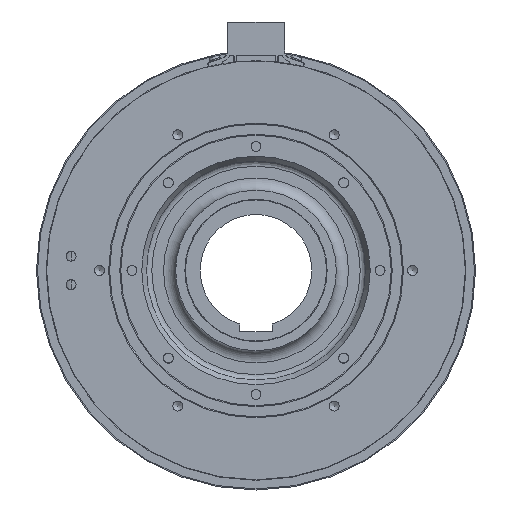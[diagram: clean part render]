
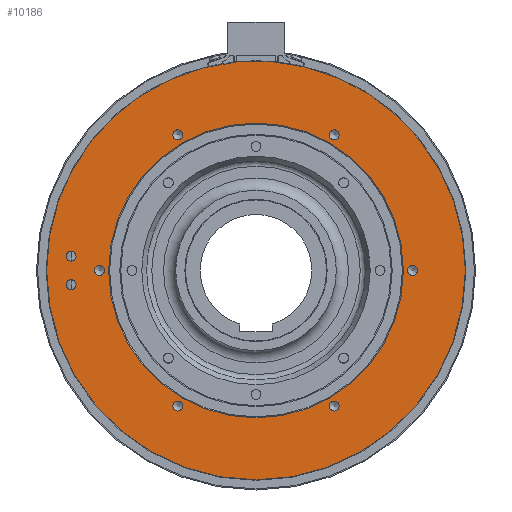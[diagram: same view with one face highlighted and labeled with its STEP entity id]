
A CAD part, left-side view. The second image highlights one B-rep face of the part: STEP entity #10186.
In plain terms, the highlighted planar face has unit normal (-1, 0, 0).
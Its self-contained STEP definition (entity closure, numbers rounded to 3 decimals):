
#1711=FACE_BOUND('',#2917,.T.);
#1712=FACE_BOUND('',#2918,.T.);
#1713=FACE_BOUND('',#2919,.T.);
#1714=FACE_BOUND('',#2920,.T.);
#1715=FACE_BOUND('',#2921,.T.);
#1716=FACE_BOUND('',#2922,.T.);
#1717=FACE_BOUND('',#2923,.T.);
#1718=FACE_BOUND('',#2924,.T.);
#1719=FACE_BOUND('',#2925,.T.);
#2253=FACE_OUTER_BOUND('',#2916,.T.);
#2916=EDGE_LOOP('',(#9055,#9056,#9057));
#2917=EDGE_LOOP('',(#9058,#9059));
#2918=EDGE_LOOP('',(#9060,#9061));
#2919=EDGE_LOOP('',(#9062,#9063));
#2920=EDGE_LOOP('',(#9064,#9065));
#2921=EDGE_LOOP('',(#9066,#9067));
#2922=EDGE_LOOP('',(#9068,#9069));
#2923=EDGE_LOOP('',(#9070,#9071));
#2924=EDGE_LOOP('',(#9072,#9073));
#2925=EDGE_LOOP('',(#9074));
#3540=CIRCLE('',#11171,103.);
#3541=CIRCLE('',#11172,103.);
#3711=CIRCLE('',#11498,103.);
#3723=CIRCLE('',#11519,2.459);
#3724=CIRCLE('',#11520,2.459);
#3725=CIRCLE('',#11522,2.459);
#3726=CIRCLE('',#11523,2.459);
#3729=CIRCLE('',#11528,2.459);
#3730=CIRCLE('',#11529,2.459);
#3733=CIRCLE('',#11534,2.459);
#3734=CIRCLE('',#11535,2.459);
#3737=CIRCLE('',#11540,2.459);
#3738=CIRCLE('',#11541,2.459);
#3741=CIRCLE('',#11546,2.459);
#3742=CIRCLE('',#11547,2.459);
#3745=CIRCLE('',#11552,2.459);
#3746=CIRCLE('',#11553,2.459);
#3749=CIRCLE('',#11558,2.459);
#3750=CIRCLE('',#11559,2.459);
#3753=CIRCLE('',#11563,72.5);
#4459=VERTEX_POINT('',#17111);
#4464=VERTEX_POINT('',#17121);
#4465=VERTEX_POINT('',#17123);
#4684=VERTEX_POINT('',#18083);
#4685=VERTEX_POINT('',#18084);
#4686=VERTEX_POINT('',#18089);
#4687=VERTEX_POINT('',#18090);
#4691=VERTEX_POINT('',#18102);
#4692=VERTEX_POINT('',#18103);
#4696=VERTEX_POINT('',#18115);
#4697=VERTEX_POINT('',#18116);
#4701=VERTEX_POINT('',#18128);
#4702=VERTEX_POINT('',#18129);
#4706=VERTEX_POINT('',#18141);
#4707=VERTEX_POINT('',#18142);
#4711=VERTEX_POINT('',#18154);
#4712=VERTEX_POINT('',#18155);
#4716=VERTEX_POINT('',#18167);
#4717=VERTEX_POINT('',#18168);
#4720=VERTEX_POINT('',#18177);
#5755=EDGE_CURVE('',#4465,#4464,#3540,.T.);
#5756=EDGE_CURVE('',#4459,#4465,#3541,.T.);
#6115=EDGE_CURVE('',#4464,#4459,#3711,.T.);
#6134=EDGE_CURVE('',#4684,#4685,#3723,.T.);
#6135=EDGE_CURVE('',#4685,#4684,#3724,.T.);
#6137=EDGE_CURVE('',#4686,#4687,#3725,.T.);
#6138=EDGE_CURVE('',#4687,#4686,#3726,.T.);
#6143=EDGE_CURVE('',#4691,#4692,#3729,.T.);
#6144=EDGE_CURVE('',#4692,#4691,#3730,.T.);
#6149=EDGE_CURVE('',#4696,#4697,#3733,.T.);
#6150=EDGE_CURVE('',#4697,#4696,#3734,.T.);
#6155=EDGE_CURVE('',#4701,#4702,#3737,.T.);
#6156=EDGE_CURVE('',#4702,#4701,#3738,.T.);
#6161=EDGE_CURVE('',#4706,#4707,#3741,.T.);
#6162=EDGE_CURVE('',#4707,#4706,#3742,.T.);
#6167=EDGE_CURVE('',#4711,#4712,#3745,.T.);
#6168=EDGE_CURVE('',#4712,#4711,#3746,.T.);
#6173=EDGE_CURVE('',#4716,#4717,#3749,.T.);
#6174=EDGE_CURVE('',#4717,#4716,#3750,.T.);
#6179=EDGE_CURVE('',#4720,#4720,#3753,.T.);
#9055=ORIENTED_EDGE('',*,*,#5755,.T.);
#9056=ORIENTED_EDGE('',*,*,#6115,.T.);
#9057=ORIENTED_EDGE('',*,*,#5756,.T.);
#9058=ORIENTED_EDGE('',*,*,#6134,.T.);
#9059=ORIENTED_EDGE('',*,*,#6135,.T.);
#9060=ORIENTED_EDGE('',*,*,#6137,.T.);
#9061=ORIENTED_EDGE('',*,*,#6138,.T.);
#9062=ORIENTED_EDGE('',*,*,#6143,.T.);
#9063=ORIENTED_EDGE('',*,*,#6144,.T.);
#9064=ORIENTED_EDGE('',*,*,#6149,.T.);
#9065=ORIENTED_EDGE('',*,*,#6150,.T.);
#9066=ORIENTED_EDGE('',*,*,#6155,.T.);
#9067=ORIENTED_EDGE('',*,*,#6156,.T.);
#9068=ORIENTED_EDGE('',*,*,#6161,.T.);
#9069=ORIENTED_EDGE('',*,*,#6162,.T.);
#9070=ORIENTED_EDGE('',*,*,#6167,.T.);
#9071=ORIENTED_EDGE('',*,*,#6168,.T.);
#9072=ORIENTED_EDGE('',*,*,#6173,.T.);
#9073=ORIENTED_EDGE('',*,*,#6174,.T.);
#9074=ORIENTED_EDGE('',*,*,#6179,.F.);
#9301=PLANE('',#11564);
#10186=ADVANCED_FACE('',(#2253,#1711,#1712,#1713,#1714,#1715,#1716,#1717,
#1718,#1719),#9301,.T.);
#11171=AXIS2_PLACEMENT_3D('',#17124,#13851,#13852);
#11172=AXIS2_PLACEMENT_3D('',#17125,#13853,#13854);
#11498=AXIS2_PLACEMENT_3D('',#17950,#14678,#14679);
#11519=AXIS2_PLACEMENT_3D('',#18085,#14721,#14722);
#11520=AXIS2_PLACEMENT_3D('',#18086,#14723,#14724);
#11522=AXIS2_PLACEMENT_3D('',#18091,#14728,#14729);
#11523=AXIS2_PLACEMENT_3D('',#18092,#14730,#14731);
#11528=AXIS2_PLACEMENT_3D('',#18104,#14742,#14743);
#11529=AXIS2_PLACEMENT_3D('',#18105,#14744,#14745);
#11534=AXIS2_PLACEMENT_3D('',#18117,#14756,#14757);
#11535=AXIS2_PLACEMENT_3D('',#18118,#14758,#14759);
#11540=AXIS2_PLACEMENT_3D('',#18130,#14770,#14771);
#11541=AXIS2_PLACEMENT_3D('',#18131,#14772,#14773);
#11546=AXIS2_PLACEMENT_3D('',#18143,#14784,#14785);
#11547=AXIS2_PLACEMENT_3D('',#18144,#14786,#14787);
#11552=AXIS2_PLACEMENT_3D('',#18156,#14798,#14799);
#11553=AXIS2_PLACEMENT_3D('',#18157,#14800,#14801);
#11558=AXIS2_PLACEMENT_3D('',#18169,#14812,#14813);
#11559=AXIS2_PLACEMENT_3D('',#18170,#14814,#14815);
#11563=AXIS2_PLACEMENT_3D('',#18179,#14824,#14825);
#11564=AXIS2_PLACEMENT_3D('',#18180,#14826,#14827);
#13851=DIRECTION('center_axis',(-1.,0.,0.));
#13852=DIRECTION('ref_axis',(0.,1.,0.));
#13853=DIRECTION('center_axis',(-1.,0.,0.));
#13854=DIRECTION('ref_axis',(0.,1.,0.));
#14678=DIRECTION('center_axis',(-1.,0.,0.));
#14679=DIRECTION('ref_axis',(0.,1.,0.));
#14721=DIRECTION('center_axis',(1.,0.,0.));
#14722=DIRECTION('ref_axis',(0.,0.,
1.));
#14723=DIRECTION('center_axis',(1.,0.,0.));
#14724=DIRECTION('ref_axis',(0.,0.,
1.));
#14728=DIRECTION('center_axis',(1.,0.,0.));
#14729=DIRECTION('ref_axis',(0.,0.,
1.));
#14730=DIRECTION('center_axis',(1.,0.,0.));
#14731=DIRECTION('ref_axis',(0.,0.,
1.));
#14742=DIRECTION('center_axis',(1.,0.,0.));
#14743=DIRECTION('ref_axis',(0.,0.,
1.));
#14744=DIRECTION('center_axis',(1.,0.,0.));
#14745=DIRECTION('ref_axis',(0.,0.,
1.));
#14756=DIRECTION('center_axis',(1.,0.,0.));
#14757=DIRECTION('ref_axis',(0.,0.,
1.));
#14758=DIRECTION('center_axis',(1.,0.,0.));
#14759=DIRECTION('ref_axis',(0.,0.,
1.));
#14770=DIRECTION('center_axis',(1.,0.,0.));
#14771=DIRECTION('ref_axis',(0.,0.,
1.));
#14772=DIRECTION('center_axis',(1.,0.,0.));
#14773=DIRECTION('ref_axis',(0.,0.,
1.));
#14784=DIRECTION('center_axis',(1.,0.,0.));
#14785=DIRECTION('ref_axis',(0.,0.,
1.));
#14786=DIRECTION('center_axis',(1.,0.,0.));
#14787=DIRECTION('ref_axis',(0.,0.,
1.));
#14798=DIRECTION('center_axis',(1.,0.,0.));
#14799=DIRECTION('ref_axis',(0.,0.,
1.));
#14800=DIRECTION('center_axis',(1.,0.,0.));
#14801=DIRECTION('ref_axis',(0.,0.,
1.));
#14812=DIRECTION('center_axis',(1.,0.,0.));
#14813=DIRECTION('ref_axis',(0.,0.,
1.));
#14814=DIRECTION('center_axis',(1.,0.,0.));
#14815=DIRECTION('ref_axis',(0.,0.,
1.));
#14824=DIRECTION('center_axis',(-1.,0.,0.));
#14825=DIRECTION('ref_axis',(0.,-1.,0.));
#14826=DIRECTION('center_axis',(-1.,0.,0.));
#14827=DIRECTION('ref_axis',(0.,0.,
1.));
#17111=CARTESIAN_POINT('',(-18.,9.681,102.544));
#17121=CARTESIAN_POINT('',(-18.,-103.,0.));
#17123=CARTESIAN_POINT('',(-18.,103.,0.));
#17124=CARTESIAN_POINT('Origin',(-18.,0.,
0.));
#17125=CARTESIAN_POINT('Origin',(-18.,0.,
0.));
#17950=CARTESIAN_POINT('Origin',(-18.,0.,
0.));
#18083=CARTESIAN_POINT('',(-18.,91.,9.459));
#18084=CARTESIAN_POINT('',(-18.,91.,4.542));
#18085=CARTESIAN_POINT('Origin',(-18.,91.,7.));
#18086=CARTESIAN_POINT('Origin',(-18.,91.,7.));
#18089=CARTESIAN_POINT('',(-18.,91.,-4.541));
#18090=CARTESIAN_POINT('',(-18.,91.,-9.458));
#18091=CARTESIAN_POINT('Origin',(-18.,91.,-7.));
#18092=CARTESIAN_POINT('Origin',(-18.,91.,-7.));
#18102=CARTESIAN_POINT('',(-18.,38.5,69.142));
#18103=CARTESIAN_POINT('',(-18.,38.5,64.225));
#18104=CARTESIAN_POINT('Origin',(-18.,38.5,66.684));
#18105=CARTESIAN_POINT('Origin',(-18.,38.5,66.684));
#18115=CARTESIAN_POINT('',(-18.,-38.5,69.142));
#18116=CARTESIAN_POINT('',(-18.,-38.5,64.225));
#18117=CARTESIAN_POINT('Origin',(-18.,-38.5,66.684));
#18118=CARTESIAN_POINT('Origin',(-18.,-38.5,66.684));
#18128=CARTESIAN_POINT('',(-18.,-77.,2.458));
#18129=CARTESIAN_POINT('',(-18.,-77.,-2.459));
#18130=CARTESIAN_POINT('Origin',(-18.,-77.,0.));
#18131=CARTESIAN_POINT('Origin',(-18.,-77.,0.));
#18141=CARTESIAN_POINT('',(-18.,-38.5,-64.225));
#18142=CARTESIAN_POINT('',(-18.,-38.5,-69.142));
#18143=CARTESIAN_POINT('Origin',(-18.,-38.5,-66.684));
#18144=CARTESIAN_POINT('Origin',(-18.,-38.5,-66.684));
#18154=CARTESIAN_POINT('',(-18.,38.5,-64.225));
#18155=CARTESIAN_POINT('',(-18.,38.5,-69.142));
#18156=CARTESIAN_POINT('Origin',(-18.,38.5,-66.684));
#18157=CARTESIAN_POINT('Origin',(-18.,38.5,-66.684));
#18167=CARTESIAN_POINT('',(-18.,77.,2.459));
#18168=CARTESIAN_POINT('',(-18.,77.,-2.458));
#18169=CARTESIAN_POINT('Origin',(-18.,77.,0.));
#18170=CARTESIAN_POINT('Origin',(-18.,77.,0.));
#18177=CARTESIAN_POINT('',(-18.,72.5,0.));
#18179=CARTESIAN_POINT('Origin',(-18.,0.,0.));
#18180=CARTESIAN_POINT('Origin',(-18.,87.5,0.));
